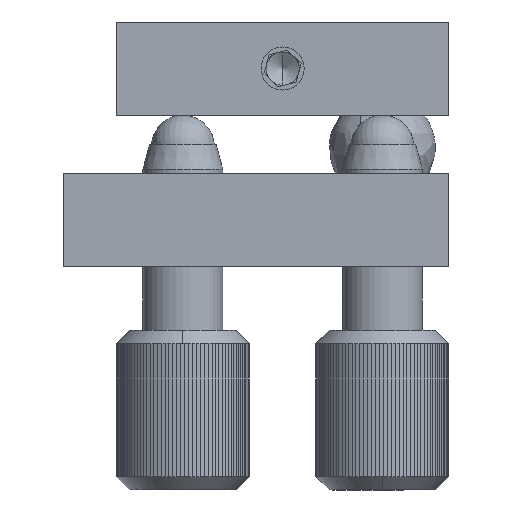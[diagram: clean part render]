
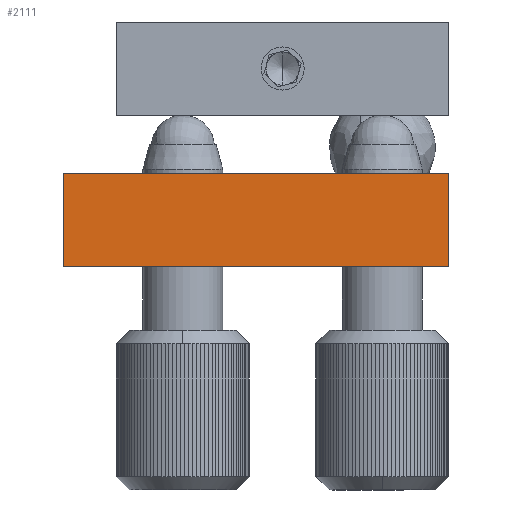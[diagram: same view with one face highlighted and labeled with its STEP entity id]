
A CAD part, front view. The second image highlights one B-rep face of the part: STEP entity #2111.
In plain terms, the highlighted planar face has unit normal (0, -1, 0).
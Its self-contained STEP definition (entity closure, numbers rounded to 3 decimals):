
#2007 = VERTEX_POINT ( 'NONE', #14413 ) ;
#2019 = VERTEX_POINT ( 'NONE', #14497 ) ;
#2038 = EDGE_CURVE ( 'NONE', #2007, #2019, #14535, .T. ) ;
#2041 = VERTEX_POINT ( 'NONE', #14531 ) ;
#2051 = EDGE_CURVE ( 'NONE', #2067, #2007, #14526, .T. ) ;
#2067 = VERTEX_POINT ( 'NONE', #14572 ) ;
#2084 = ORIENTED_EDGE ( 'NONE', *, *, #2091, .T. ) ;
#2088 = EDGE_CURVE ( 'NONE', #2041, #2067, #14619, .T. ) ;
#2089 = ORIENTED_EDGE ( 'NONE', *, *, #2051, .T. ) ;
#2090 = ORIENTED_EDGE ( 'NONE', *, *, #2038, .T. ) ;
#2091 = EDGE_CURVE ( 'NONE', #2019, #2041, #14611, .T. ) ;
#2108 = ORIENTED_EDGE ( 'NONE', *, *, #2088, .T. ) ;
#2111 = ADVANCED_FACE ( 'NONE', ( #14647 ), #14646, .T. ) ;
#2112 = EDGE_LOOP ( 'NONE', ( #2108, #2089, #2090, #2084 ) ) ;
#14413 = CARTESIAN_POINT ( 'NONE',  ( 29., 0., 7. ) ) ;
#14497 = CARTESIAN_POINT ( 'NONE',  ( 0., 0., 7. ) ) ;
#14523 = DIRECTION ( 'NONE',  ( 0., 0., 1. ) ) ;
#14524 = VECTOR ( 'NONE', #14523, 1000. ) ;
#14525 = CARTESIAN_POINT ( 'NONE',  ( 29., 0., 0. ) ) ;
#14526 = LINE ( 'NONE', #14525, #14524 ) ;
#14531 = CARTESIAN_POINT ( 'NONE',  ( 0., 0., 0. ) ) ;
#14532 = DIRECTION ( 'NONE',  ( -1., 0., 0. ) ) ;
#14533 = VECTOR ( 'NONE', #14532, 1000. ) ;
#14534 = CARTESIAN_POINT ( 'NONE',  ( 29., 0., 7. ) ) ;
#14535 = LINE ( 'NONE', #14534, #14533 ) ;
#14572 = CARTESIAN_POINT ( 'NONE',  ( 29., 0., 0. ) ) ;
#14608 = DIRECTION ( 'NONE',  ( 0., 0., -1. ) ) ;
#14609 = VECTOR ( 'NONE', #14608, 1000. ) ;
#14610 = CARTESIAN_POINT ( 'NONE',  ( 0., 0., 0. ) ) ;
#14611 = LINE ( 'NONE', #14610, #14609 ) ;
#14612 = DIRECTION ( 'NONE',  ( 1., 0., 0. ) ) ;
#14613 = VECTOR ( 'NONE', #14612, 1000. ) ;
#14614 = CARTESIAN_POINT ( 'NONE',  ( 14.5, 0., 0. ) ) ;
#14619 = LINE ( 'NONE', #14614, #14613 ) ;
#14642 = DIRECTION ( 'NONE',  ( 1., 0., 0. ) ) ;
#14643 = DIRECTION ( 'NONE',  ( 0., -1., 0. ) ) ;
#14644 = CARTESIAN_POINT ( 'NONE',  ( 29., 0., 0. ) ) ;
#14645 = AXIS2_PLACEMENT_3D ( 'NONE', #14644, #14643, #14642 ) ;
#14646 = PLANE ( 'NONE',  #14645 ) ;
#14647 = FACE_OUTER_BOUND ( 'NONE', #2112, .T. ) ;
